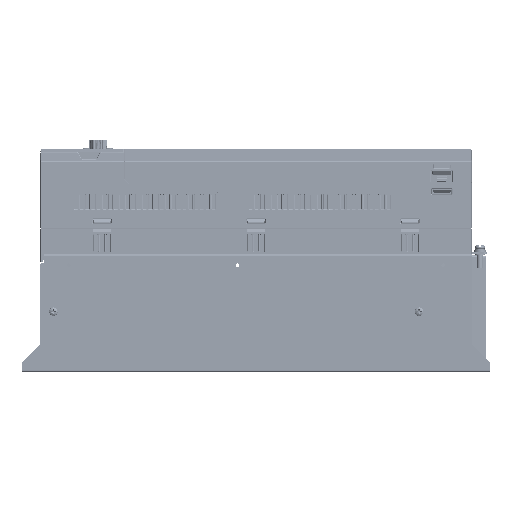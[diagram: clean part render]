
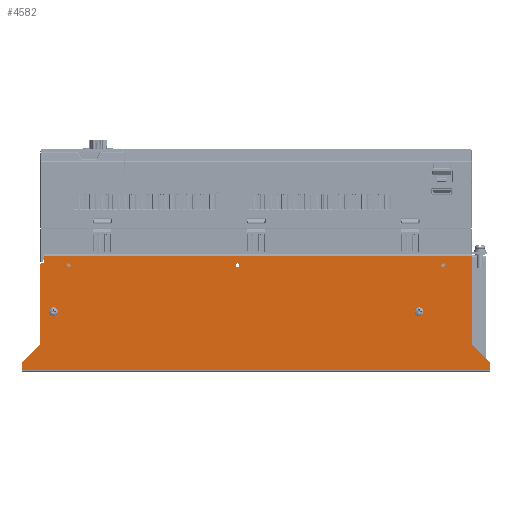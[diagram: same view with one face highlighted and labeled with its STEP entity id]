
A CAD part, left-side view. The second image highlights one B-rep face of the part: STEP entity #4582.
In plain terms, the highlighted planar face has unit normal (-1, 0, 0).
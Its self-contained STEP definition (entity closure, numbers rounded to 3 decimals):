
#982=CARTESIAN_POINT('',(-90.,42.5,83.3));
#983=DIRECTION('',(1.,0.,0.));
#984=DIRECTION('',(0.,-1.,0.));
#985=AXIS2_PLACEMENT_3D('',#982,#983,#984);
#987=CARTESIAN_POINT('',(-90.,42.5,83.3));
#988=DIRECTION('',(1.,0.,0.));
#989=DIRECTION('',(0.,1.,0.));
#990=AXIS2_PLACEMENT_3D('',#987,#988,#989);
#992=CARTESIAN_POINT('',(-90.,339.5,83.3));
#993=DIRECTION('',(1.,0.,0.));
#994=DIRECTION('',(0.,-1.,0.));
#995=AXIS2_PLACEMENT_3D('',#992,#993,#994);
#997=CARTESIAN_POINT('',(-90.,339.5,83.3));
#998=DIRECTION('',(1.,0.,0.));
#999=DIRECTION('',(0.,1.,0.));
#1000=AXIS2_PLACEMENT_3D('',#997,#998,#999);
#1002=CARTESIAN_POINT('',(-90.,348.5,121.6));
#1003=DIRECTION('',(-1.,0.,0.));
#1004=DIRECTION('',(0.,0.,1.));
#1005=AXIS2_PLACEMENT_3D('',#1002,#1003,#1004);
#1007=DIRECTION('',(0.,1.,0.));
#1008=VECTOR('',#1007,1.5);
#1009=CARTESIAN_POINT('',(-90.,347.,123.1));
#1010=LINE('',#1009,#1008);
#1011=DIRECTION('',(0.,0.,-1.));
#1012=VECTOR('',#1011,5.2);
#1013=CARTESIAN_POINT('',(-90.,347.,128.3));
#1014=LINE('',#1013,#1012);
#1015=DIRECTION('',(0.,1.,0.));
#1016=VECTOR('',#1015,347.);
#1017=CARTESIAN_POINT('',(-90.,0.,128.3));
#1018=LINE('',#1017,#1016);
#1019=DIRECTION('',(0.,0.,-1.));
#1020=VECTOR('',#1019,70.372);
#1021=CARTESIAN_POINT('',(-90.,0.,128.3));
#1022=LINE('',#1021,#1020);
#1023=DIRECTION('',(0.,-0.707,-0.707));
#1024=VECTOR('',#1023,19.556);
#1025=CARTESIAN_POINT('',(-90.,-0.586,56.514));
#1026=LINE('',#1025,#1024);
#1027=CARTESIAN_POINT('',(-90.,-13.,41.272));
#1028=DIRECTION('',(-1.,0.,0.));
#1029=DIRECTION('',(0.,-1.,0.));
#1030=AXIS2_PLACEMENT_3D('',#1027,#1028,#1029);
#1032=DIRECTION('',(0.,1.,0.));
#1033=VECTOR('',#1032,380.);
#1034=CARTESIAN_POINT('',(-90.,-15.,35.8));
#1035=LINE('',#1034,#1033);
#1036=CARTESIAN_POINT('',(-90.,363.,41.272));
#1037=DIRECTION('',(-1.,0.,0.));
#1038=DIRECTION('',(0.,0.707,0.707));
#1039=AXIS2_PLACEMENT_3D('',#1036,#1037,#1038);
#1041=DIRECTION('',(0.,-0.707,0.707));
#1042=VECTOR('',#1041,19.556);
#1043=CARTESIAN_POINT('',(-90.,364.414,42.686));
#1044=LINE('',#1043,#1042);
#1045=DIRECTION('',(0.,0.,-1.));
#1046=VECTOR('',#1045,63.672);
#1047=CARTESIAN_POINT('',(-90.,350.,121.6));
#1048=LINE('',#1047,#1046);
#1049=CARTESIAN_POINT('',(-90.,327.,121.));
#1050=DIRECTION('',(-1.,0.,0.));
#1051=DIRECTION('',(0.,1.,0.));
#1052=AXIS2_PLACEMENT_3D('',#1049,#1050,#1051);
#1054=CARTESIAN_POINT('',(-90.,327.,121.));
#1055=DIRECTION('',(-1.,0.,0.));
#1056=DIRECTION('',(0.,-1.,0.));
#1057=AXIS2_PLACEMENT_3D('',#1054,#1055,#1056);
#1059=CARTESIAN_POINT('',(-90.,190.,121.));
#1060=DIRECTION('',(-1.,0.,0.));
#1061=DIRECTION('',(0.,1.,0.));
#1062=AXIS2_PLACEMENT_3D('',#1059,#1060,#1061);
#1064=CARTESIAN_POINT('',(-90.,190.,121.));
#1065=DIRECTION('',(-1.,0.,0.));
#1066=DIRECTION('',(0.,-1.,0.));
#1067=AXIS2_PLACEMENT_3D('',#1064,#1065,#1066);
#1069=CARTESIAN_POINT('',(-90.,23.,121.));
#1070=DIRECTION('',(-1.,0.,0.));
#1071=DIRECTION('',(0.,1.,0.));
#1072=AXIS2_PLACEMENT_3D('',#1069,#1070,#1071);
#1074=CARTESIAN_POINT('',(-90.,23.,121.));
#1075=DIRECTION('',(-1.,0.,0.));
#1076=DIRECTION('',(0.,-1.,0.));
#1077=AXIS2_PLACEMENT_3D('',#1074,#1075,#1076);
#1200=CARTESIAN_POINT('',(-90.,352.,57.928));
#1201=DIRECTION('',(1.,0.,0.));
#1202=DIRECTION('',(0.,-1.,0.));
#1203=AXIS2_PLACEMENT_3D('',#1200,#1201,#1202);
#1222=DIRECTION('',(0.,0.,-1.));
#1223=VECTOR('',#1222,5.472);
#1224=CARTESIAN_POINT('',(-90.,365.,41.272));
#1225=LINE('',#1224,#1223);
#2466=CARTESIAN_POINT('',(-90.,-2.,57.928));
#2467=DIRECTION('',(1.,0.,0.));
#2468=DIRECTION('',(0.,0.707,-0.707));
#2469=AXIS2_PLACEMENT_3D('',#2466,#2467,#2468);
#2492=DIRECTION('',(0.,0.,-1.));
#2493=VECTOR('',#2492,5.472);
#2494=CARTESIAN_POINT('',(-90.,-15.,41.272));
#2495=LINE('',#2494,#2493);
#2612=CARTESIAN_POINT('',(-90.,-15.,35.8));
#2613=CARTESIAN_POINT('',(-90.,365.,35.8));
#2614=VERTEX_POINT('',#2612);
#2615=VERTEX_POINT('',#2613);
#2640=CARTESIAN_POINT('',(-90.,0.,128.3));
#2642=VERTEX_POINT('',#2640);
#2684=CARTESIAN_POINT('',(-90.,347.,128.3));
#2685=CARTESIAN_POINT('',(-90.,347.,123.1));
#2686=VERTEX_POINT('',#2684);
#2687=VERTEX_POINT('',#2685);
#2708=CARTESIAN_POINT('',(-90.,40.5,83.3));
#2709=CARTESIAN_POINT('',(-90.,44.5,83.3));
#2710=VERTEX_POINT('',#2708);
#2711=VERTEX_POINT('',#2709);
#2712=CARTESIAN_POINT('',(-90.,337.5,83.3));
#2713=CARTESIAN_POINT('',(-90.,341.5,83.3));
#2714=VERTEX_POINT('',#2712);
#2715=VERTEX_POINT('',#2713);
#2912=CARTESIAN_POINT('',(-90.,350.,57.928));
#2914=VERTEX_POINT('',#2912);
#2916=CARTESIAN_POINT('',(-90.,350.586,56.514));
#2918=VERTEX_POINT('',#2916);
#2928=CARTESIAN_POINT('',(-90.,-0.586,56.514));
#2930=VERTEX_POINT('',#2928);
#2932=CARTESIAN_POINT('',(-90.,0.,57.928));
#2934=VERTEX_POINT('',#2932);
#2944=CARTESIAN_POINT('',(-90.,364.414,42.686));
#2945=CARTESIAN_POINT('',(-90.,365.,41.272));
#2946=VERTEX_POINT('',#2944);
#2947=VERTEX_POINT('',#2945);
#2960=CARTESIAN_POINT('',(-90.,-15.,41.272));
#2961=CARTESIAN_POINT('',(-90.,-14.414,42.686));
#2962=VERTEX_POINT('',#2960);
#2963=VERTEX_POINT('',#2961);
#3168=CARTESIAN_POINT('',(-90.,348.5,123.1));
#3169=CARTESIAN_POINT('',(-90.,350.,121.6));
#3170=VERTEX_POINT('',#3168);
#3171=VERTEX_POINT('',#3169);
#3328=CARTESIAN_POINT('',(-90.,328.45,121.));
#3329=CARTESIAN_POINT('',(-90.,325.55,121.));
#3330=VERTEX_POINT('',#3328);
#3331=VERTEX_POINT('',#3329);
#3332=CARTESIAN_POINT('',(-90.,191.45,121.));
#3333=CARTESIAN_POINT('',(-90.,188.55,121.));
#3334=VERTEX_POINT('',#3332);
#3335=VERTEX_POINT('',#3333);
#3336=CARTESIAN_POINT('',(-90.,24.45,121.));
#3337=CARTESIAN_POINT('',(-90.,21.55,121.));
#3338=VERTEX_POINT('',#3336);
#3339=VERTEX_POINT('',#3337);
#4516=CARTESIAN_POINT('',(-90.,-15.,130.));
#4517=DIRECTION('',(-1.,0.,0.));
#4518=DIRECTION('',(0.,0.,-1.));
#4519=AXIS2_PLACEMENT_3D('',#4516,#4517,#4518);
#4520=PLANE('',#4519);
#4522=ORIENTED_EDGE('',*,*,#4521,.F.);
#4524=ORIENTED_EDGE('',*,*,#4523,.F.);
#4526=ORIENTED_EDGE('',*,*,#4525,.F.);
#4528=ORIENTED_EDGE('',*,*,#4527,.F.);
#4530=ORIENTED_EDGE('',*,*,#4529,.T.);
#4532=ORIENTED_EDGE('',*,*,#4531,.F.);
#4534=ORIENTED_EDGE('',*,*,#4533,.T.);
#4536=ORIENTED_EDGE('',*,*,#4535,.F.);
#4538=ORIENTED_EDGE('',*,*,#4537,.T.);
#4539=ORIENTED_EDGE('',*,*,#4507,.T.);
#4541=ORIENTED_EDGE('',*,*,#4540,.F.);
#4543=ORIENTED_EDGE('',*,*,#4542,.F.);
#4545=ORIENTED_EDGE('',*,*,#4544,.T.);
#4547=ORIENTED_EDGE('',*,*,#4546,.F.);
#4549=ORIENTED_EDGE('',*,*,#4548,.F.);
#4550=EDGE_LOOP('',(#4522,#4524,#4526,#4528,#4530,#4532,#4534,#4536,#4538,#4539,
#4541,#4543,#4545,#4547,#4549));
#4551=FACE_OUTER_BOUND('',#4550,.F.);
#4553=ORIENTED_EDGE('',*,*,#4552,.F.);
#4555=ORIENTED_EDGE('',*,*,#4554,.F.);
#4556=EDGE_LOOP('',(#4553,#4555));
#4557=FACE_BOUND('',#4556,.F.);
#4559=ORIENTED_EDGE('',*,*,#4558,.F.);
#4561=ORIENTED_EDGE('',*,*,#4560,.F.);
#4562=EDGE_LOOP('',(#4559,#4561));
#4563=FACE_BOUND('',#4562,.F.);
#4565=ORIENTED_EDGE('',*,*,#4564,.T.);
#4567=ORIENTED_EDGE('',*,*,#4566,.T.);
#4568=EDGE_LOOP('',(#4565,#4567));
#4569=FACE_BOUND('',#4568,.F.);
#4571=ORIENTED_EDGE('',*,*,#4570,.T.);
#4573=ORIENTED_EDGE('',*,*,#4572,.T.);
#4574=EDGE_LOOP('',(#4571,#4573));
#4575=FACE_BOUND('',#4574,.F.);
#4577=ORIENTED_EDGE('',*,*,#4576,.T.);
#4579=ORIENTED_EDGE('',*,*,#4578,.T.);
#4580=EDGE_LOOP('',(#4577,#4579));
#4581=FACE_BOUND('',#4580,.F.);
#4582=ADVANCED_FACE('',(#4551,#4557,#4563,#4569,#4575,#4581),#4520,.T.);
#986=CIRCLE('',#985,2.);
#991=CIRCLE('',#990,2.);
#996=CIRCLE('',#995,2.);
#1001=CIRCLE('',#1000,2.);
#1006=CIRCLE('',#1005,1.5);
#1031=CIRCLE('',#1030,2.);
#1040=CIRCLE('',#1039,2.);
#1053=CIRCLE('',#1052,1.45);
#1058=CIRCLE('',#1057,1.45);
#1063=CIRCLE('',#1062,1.45);
#1068=CIRCLE('',#1067,1.45);
#1073=CIRCLE('',#1072,1.45);
#1078=CIRCLE('',#1077,1.45);
#1204=CIRCLE('',#1203,2.);
#2470=CIRCLE('',#2469,2.);
#4507=EDGE_CURVE('',#2614,#2615,#1035,.T.);
#4521=EDGE_CURVE('',#3170,#3171,#1006,.T.);
#4523=EDGE_CURVE('',#2687,#3170,#1010,.T.);
#4525=EDGE_CURVE('',#2686,#2687,#1014,.T.);
#4527=EDGE_CURVE('',#2642,#2686,#1018,.T.);
#4529=EDGE_CURVE('',#2642,#2934,#1022,.T.);
#4531=EDGE_CURVE('',#2930,#2934,#2470,.T.);
#4533=EDGE_CURVE('',#2930,#2963,#1026,.T.);
#4535=EDGE_CURVE('',#2962,#2963,#1031,.T.);
#4537=EDGE_CURVE('',#2962,#2614,#2495,.T.);
#4540=EDGE_CURVE('',#2947,#2615,#1225,.T.);
#4542=EDGE_CURVE('',#2946,#2947,#1040,.T.);
#4544=EDGE_CURVE('',#2946,#2918,#1044,.T.);
#4546=EDGE_CURVE('',#2914,#2918,#1204,.T.);
#4548=EDGE_CURVE('',#3171,#2914,#1048,.T.);
#4552=EDGE_CURVE('',#2714,#2715,#996,.T.);
#4554=EDGE_CURVE('',#2715,#2714,#1001,.T.);
#4558=EDGE_CURVE('',#2710,#2711,#986,.T.);
#4560=EDGE_CURVE('',#2711,#2710,#991,.T.);
#4564=EDGE_CURVE('',#3330,#3331,#1053,.T.);
#4566=EDGE_CURVE('',#3331,#3330,#1058,.T.);
#4570=EDGE_CURVE('',#3334,#3335,#1063,.T.);
#4572=EDGE_CURVE('',#3335,#3334,#1068,.T.);
#4576=EDGE_CURVE('',#3338,#3339,#1073,.T.);
#4578=EDGE_CURVE('',#3339,#3338,#1078,.T.);
